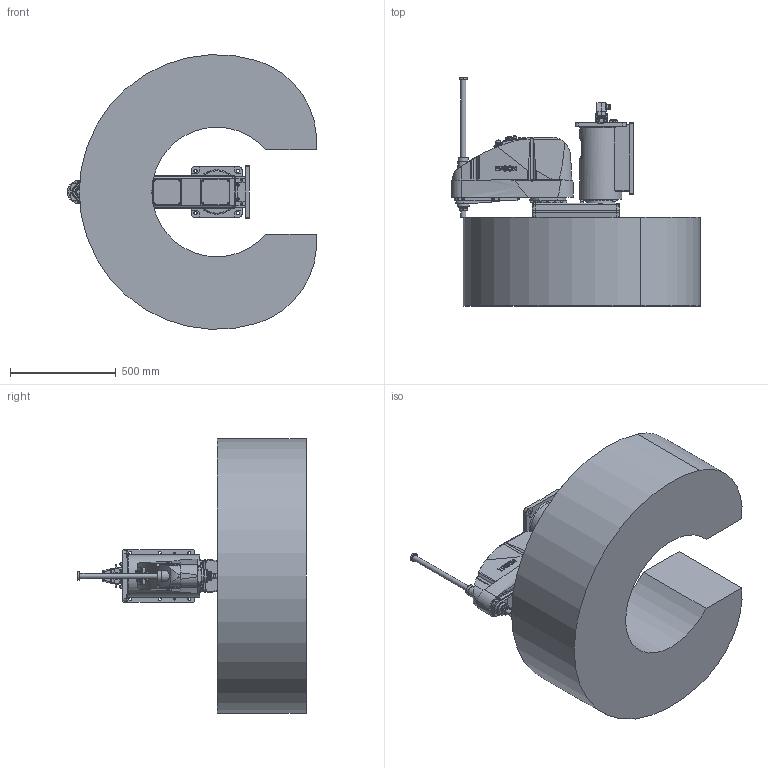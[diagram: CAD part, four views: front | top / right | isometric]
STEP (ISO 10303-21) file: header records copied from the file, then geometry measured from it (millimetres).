
FILE_DESCRIPTION( ( 'STEP AP214' ), '1' );
FILE_NAME( 'C:/Users/9607552/Desktop/GX10-B654SW_langle.stp', '2023-08-01T09:11:16', ( '' ), ( '' ), ' ', 'PARTsolutions', ' ' );
FILE_SCHEMA( ( 'AUTOMOTIVE_DESIGN { 1 0 10303 214 1 1 1 1 }' ) );
Length unit declared in the file: millimetre
Products named in the file (7): GX10-B654SWA-W; _Base sw; _Angle-B; _J1 Arm GX10-250 r/w; _J2 Arm GX10-s; _J3 Arm GX10-s (4); _GX10_20B-26_4
Assembly tree (6 placements, depth 2):
  GX10-B654SWA-W
    _Base sw
    _Angle-B
    _J1 Arm GX10-250 r/w
    _J2 Arm GX10-s
    _J3 Arm GX10-s (4)
    _GX10_20B-26_4
Bounding box: 1177.46 x 1080 x 1298.81 mm (x, y, z)
Volume: 388929913.2 mm3; surface area: 5421185.4 mm2
Topology: 6 solids, 6 shells, 2527 faces, 6204 edges, 4059 vertices
Faces by surface type: plane 1327, cylinder 803, cone 302, torus 62, bspline 32, sphere 1
Full cylindrical faces by diameter (mm): 1 x24, 1.18 x55, 2.5 x2, 3 x32, 3.242 x10, 3.3 x4, 4.2 x4, 4.8 x4, 5.1 x4, 5.25 x2, 5.34 x8, 5.4 x5, 5.5 x16, 6 x2, 6.2 x4, 6.647 x2, 6.8 x2, 7 x23, 7.59 x8, 8 x9, 8.5 x2, 9 x4, 10 x32, 11 x14, 12 x6, 12.25 x1, 13 x8, 14 x20, 14.25 x1, 16 x6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
Entity records: 95677 total; most frequent: CARTESIAN_POINT 17913, DIRECTION 11897, ORIENTED_EDGE 11004, EDGE_CURVE 5502, AXIS2_PLACEMENT_3D 4547, VERTEX_POINT 3970, EDGE_LOOP 3564, FACE_OUTER_BOUND 2923
